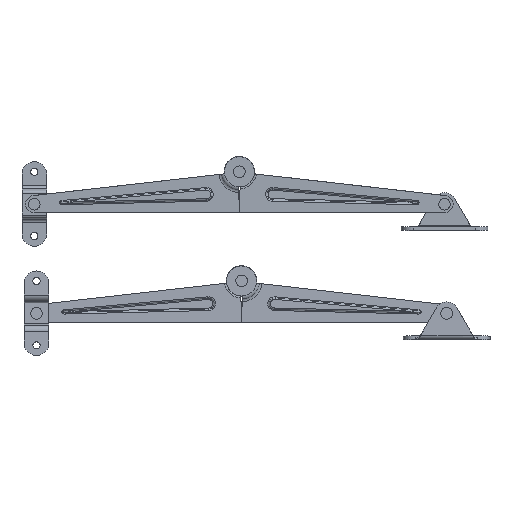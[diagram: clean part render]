
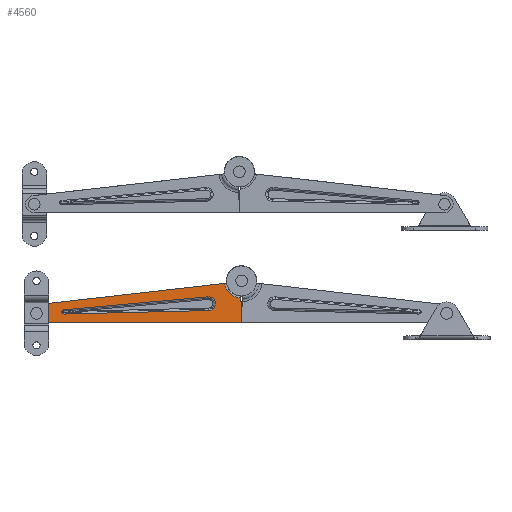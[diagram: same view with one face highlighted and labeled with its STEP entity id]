
A CAD part, top view. The second image highlights one B-rep face of the part: STEP entity #4560.
In plain terms, the highlighted planar face has unit normal (0, 0.018, 1) as drawn and (0, 0, -1) by its records, which use the part's own axes.
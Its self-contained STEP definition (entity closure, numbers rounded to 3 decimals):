
#398=FACE_BOUND('',#1169,.T.);
#399=FACE_BOUND('',#1170,.T.);
#531=PLANE('',#5086);
#790=FACE_OUTER_BOUND('',#1168,.T.);
#1168=EDGE_LOOP('',(#4041,#4042,#4043,#4044,#4045));
#1169=EDGE_LOOP('',(#4046));
#1170=EDGE_LOOP('',(#4047,#4048,#4049,#4050));
#1301=B_SPLINE_CURVE_WITH_KNOTS('',3,(#10034,#10035,#10036,#10037,#10038,
#10039,#10040,#10041,#10042,#10043,#10044,#10045,#10046,#10047,#10048,#10049,
#10050,#10051,#10052,#10053,#10054,#10055,#10056,#10057,#10058,#10059,#10060,
#10061,#10062),.UNSPECIFIED.,.F.,.F.,(4,1,1,1,1,1,1,1,1,1,1,1,1,1,1,1,1,
1,1,1,1,1,1,1,1,1,4),(-0.65,-0.603,-0.557,
-0.534,-0.487,-0.464,-0.441,
-0.418,-0.371,-0.279,-0.273,
-0.267,-0.255,-0.232,-0.221,
-0.209,-0.2,-0.197,-0.191,
-0.189,-0.187,-0.186,-0.186,
-0.116,-0.093,-0.046,0.),
 .UNSPECIFIED.);
#1521=LINE('',#9853,#1745);
#1524=LINE('',#10068,#1748);
#1526=LINE('',#10147,#1750);
#1527=LINE('',#10151,#1751);
#1528=LINE('',#10152,#1752);
#1745=VECTOR('',#6284,99.165);
#1748=VECTOR('',#6295,99.165);
#1750=VECTOR('',#6315,131.766);
#1751=VECTOR('',#6318,142.);
#1752=VECTOR('',#6319,16.645);
#1981=CIRCLE('',#5081,4.732);
#1983=CIRCLE('',#5087,11.871);
#1984=CIRCLE('',#5088,6.);
#1985=CIRCLE('',#5089,2.);
#2363=VERTEX_POINT('',#9849);
#2365=VERTEX_POINT('',#9852);
#2368=VERTEX_POINT('',#10003);
#2370=VERTEX_POINT('',#10065);
#2373=VERTEX_POINT('',#10143);
#2374=VERTEX_POINT('',#10144);
#2375=VERTEX_POINT('',#10146);
#2376=VERTEX_POINT('',#10148);
#2377=VERTEX_POINT('',#10150);
#2378=VERTEX_POINT('',#10153);
#2926=EDGE_CURVE('',#2365,#2363,#1521,.T.);
#2931=EDGE_CURVE('',#2368,#2365,#1301,.T.);
#2934=EDGE_CURVE('',#2370,#2368,#1524,.T.);
#2936=EDGE_CURVE('',#2363,#2370,#1981,.T.);
#2941=EDGE_CURVE('',#2373,#2374,#1983,.T.);
#2942=EDGE_CURVE('',#2375,#2374,#1526,.T.);
#2943=EDGE_CURVE('',#2376,#2375,#1984,.T.);
#2944=EDGE_CURVE('',#2377,#2376,#1527,.T.);
#2945=EDGE_CURVE('',#2373,#2377,#1528,.T.);
#2946=EDGE_CURVE('',#2378,#2378,#1985,.T.);
#4041=ORIENTED_EDGE('',*,*,#2941,.T.);
#4042=ORIENTED_EDGE('',*,*,#2942,.F.);
#4043=ORIENTED_EDGE('',*,*,#2943,.F.);
#4044=ORIENTED_EDGE('',*,*,#2944,.F.);
#4045=ORIENTED_EDGE('',*,*,#2945,.F.);
#4046=ORIENTED_EDGE('',*,*,#2946,.F.);
#4047=ORIENTED_EDGE('',*,*,#2926,.T.);
#4048=ORIENTED_EDGE('',*,*,#2936,.T.);
#4049=ORIENTED_EDGE('',*,*,#2934,.T.);
#4050=ORIENTED_EDGE('',*,*,#2931,.T.);
#4560=ADVANCED_FACE('',(#790,#398,#399),#531,.F.);
#5081=AXIS2_PLACEMENT_3D('',#10071,#6300,#6301);
#5086=AXIS2_PLACEMENT_3D('',#10142,#6311,#6312);
#5087=AXIS2_PLACEMENT_3D('',#10145,#6313,#6314);
#5088=AXIS2_PLACEMENT_3D('',#10149,#6316,#6317);
#5089=AXIS2_PLACEMENT_3D('',#10154,#6320,#6321);
#6284=DIRECTION('',(-0.996,0.089,0.));
#6295=DIRECTION('',(1.,-0.024,0.));
#6300=DIRECTION('center_axis',(0.,0.,1.));
#6301=DIRECTION('ref_axis',(-0.998,0.057,0.));
#6311=DIRECTION('center_axis',(0.,0.,1.));
#6312=DIRECTION('ref_axis',(1.,0.,0.));
#6313=DIRECTION('center_axis',(0.,0.,1.));
#6314=DIRECTION('ref_axis',(0.672,-0.74,0.));
#6315=DIRECTION('',(-0.994,0.113,0.));
#6316=DIRECTION('center_axis',(0.,0.,1.));
#6317=DIRECTION('ref_axis',(0.,-1.,0.));
#6318=DIRECTION('',(1.,0.,0.));
#6319=DIRECTION('',(-0.028,-1.,0.));
#6320=DIRECTION('center_axis',(0.,0.,-1.));
#6321=DIRECTION('ref_axis',(-1.,0.,0.));
#9849=CARTESIAN_POINT('',(23.285,-10.996,-4.));
#9852=CARTESIAN_POINT('',(122.056,-19.83,-4.));
#9853=CARTESIAN_POINT('',(73.185,-15.459,-4.));
#10003=CARTESIAN_POINT('',(121.884,-22.854,-4.));
#10034=CARTESIAN_POINT('Ctrl Pts',(121.884,-22.854,-4.));
#10035=CARTESIAN_POINT('Ctrl Pts',(122.038,-22.858,-4.));
#10036=CARTESIAN_POINT('Ctrl Pts',(122.348,-22.864,-4.));
#10037=CARTESIAN_POINT('Ctrl Pts',(122.735,-22.864,-4.));
#10038=CARTESIAN_POINT('Ctrl Pts',(123.121,-22.844,-4.));
#10039=CARTESIAN_POINT('Ctrl Pts',(123.426,-22.775,-4.));
#10040=CARTESIAN_POINT('Ctrl Pts',(123.703,-22.633,-4.));
#10041=CARTESIAN_POINT('Ctrl Pts',(123.891,-22.496,-4.));
#10042=CARTESIAN_POINT('Ctrl Pts',(124.109,-22.276,-4.));
#10043=CARTESIAN_POINT('Ctrl Pts',(124.393,-21.806,-4.));
#10044=CARTESIAN_POINT('Ctrl Pts',(124.423,-21.298,-4.));
#10045=CARTESIAN_POINT('Ctrl Pts',(124.324,-20.963,-4.));
#10046=CARTESIAN_POINT('Ctrl Pts',(124.299,-20.89,-4.));
#10047=CARTESIAN_POINT('Ctrl Pts',(124.248,-20.765,-4.));
#10048=CARTESIAN_POINT('Ctrl Pts',(124.173,-20.629,-4.));
#10049=CARTESIAN_POINT('Ctrl Pts',(124.082,-20.503,-4.));
#10050=CARTESIAN_POINT('Ctrl Pts',(124.013,-20.423,-4.));
#10051=CARTESIAN_POINT('Ctrl Pts',(123.958,-20.367,-4.));
#10052=CARTESIAN_POINT('Ctrl Pts',(123.916,-20.328,-4.));
#10053=CARTESIAN_POINT('Ctrl Pts',(123.887,-20.302,-4.));
#10054=CARTESIAN_POINT('Ctrl Pts',(123.861,-20.28,-4.));
#10055=CARTESIAN_POINT('Ctrl Pts',(123.848,-20.27,-4.));
#10056=CARTESIAN_POINT('Ctrl Pts',(123.84,-20.264,-4.));
#10057=CARTESIAN_POINT('Ctrl Pts',(123.654,-20.117,-4.));
#10058=CARTESIAN_POINT('Ctrl Pts',(123.361,-19.992,-4.));
#10059=CARTESIAN_POINT('Ctrl Pts',(122.902,-19.917,-4.));
#10060=CARTESIAN_POINT('Ctrl Pts',(122.518,-19.873,-4.));
#10061=CARTESIAN_POINT('Ctrl Pts',(122.21,-19.844,-4.));
#10062=CARTESIAN_POINT('Ctrl Pts',(122.056,-19.83,-4.));
#10065=CARTESIAN_POINT('',(22.749,-20.44,-4.));
#10068=CARTESIAN_POINT('',(122.916,-22.88,-4.));
#10071=CARTESIAN_POINT('Origin',(22.864,-15.709,-4.));
#10142=CARTESIAN_POINT('Origin',(64.257,-16.881,-4.));
#10143=CARTESIAN_POINT('',(0.462,-11.862,-4.));
#10144=CARTESIAN_POINT('',(11.755,-1.655,-4.));
#10145=CARTESIAN_POINT('Origin',(0.,0.,-4.));
#10146=CARTESIAN_POINT('',(142.678,-16.538,-4.));
#10147=CARTESIAN_POINT('',(142.678,-16.538,-4.));
#10148=CARTESIAN_POINT('',(142.,-28.5,-4.));
#10149=CARTESIAN_POINT('Origin',(142.,-22.5,-4.));
#10150=CARTESIAN_POINT('',(0.,-28.5,-4.));
#10151=CARTESIAN_POINT('',(0.,-28.5,-4.));
#10152=CARTESIAN_POINT('',(0.5,-10.488,-4.));
#10153=CARTESIAN_POINT('',(144.,-22.5,-4.));
#10154=CARTESIAN_POINT('Origin',(142.,-22.5,-4.));
